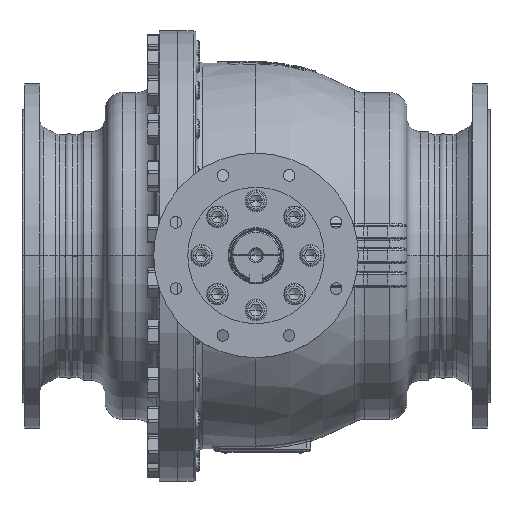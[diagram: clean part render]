
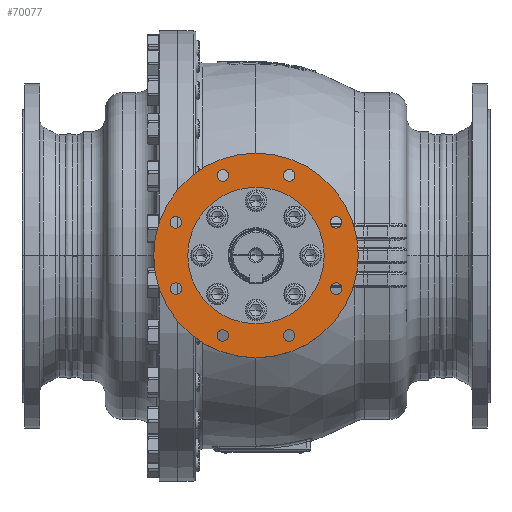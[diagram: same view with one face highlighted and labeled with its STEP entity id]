
A CAD part, top view. The second image highlights one B-rep face of the part: STEP entity #70077.
In plain terms, the highlighted planar face has unit normal (0, 0, 1).
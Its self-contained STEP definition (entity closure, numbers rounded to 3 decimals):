
#3272=CARTESIAN_POINT('',(0.,0.,440.));
#3273=DIRECTION('',(0.,0.,1.));
#3274=DIRECTION('',(1.,0.,0.));
#3275=AXIS2_PLACEMENT_3D('',#3272,#3273,#3274);
#3277=CARTESIAN_POINT('',(0.,0.,440.));
#3278=DIRECTION('',(0.,0.,-1.));
#3279=DIRECTION('',(1.,0.,0.));
#3280=AXIS2_PLACEMENT_3D('',#3277,#3278,#3279);
#3282=CARTESIAN_POINT('',(-117.333,48.601,440.));
#3283=DIRECTION('',(0.,0.,-1.));
#3284=DIRECTION('',(-1.,0.,0.));
#3285=AXIS2_PLACEMENT_3D('',#3282,#3283,#3284);
#3287=CARTESIAN_POINT('',(-117.333,48.601,440.));
#3288=DIRECTION('',(0.,0.,-1.));
#3289=DIRECTION('',(1.,0.,0.));
#3290=AXIS2_PLACEMENT_3D('',#3287,#3288,#3289);
#3292=CARTESIAN_POINT('',(-48.601,117.333,440.));
#3293=DIRECTION('',(0.,0.,-1.));
#3294=DIRECTION('',(-0.707,0.707,0.));
#3295=AXIS2_PLACEMENT_3D('',#3292,#3293,#3294);
#3297=CARTESIAN_POINT('',(-48.601,117.333,440.));
#3298=DIRECTION('',(0.,0.,-1.));
#3299=DIRECTION('',(0.707,-0.707,0.));
#3300=AXIS2_PLACEMENT_3D('',#3297,#3298,#3299);
#3302=CARTESIAN_POINT('',(48.601,117.333,440.));
#3303=DIRECTION('',(0.,0.,-1.));
#3304=DIRECTION('',(0.,1.,0.));
#3305=AXIS2_PLACEMENT_3D('',#3302,#3303,#3304);
#3307=CARTESIAN_POINT('',(48.601,117.333,440.));
#3308=DIRECTION('',(0.,0.,-1.));
#3309=DIRECTION('',(0.,-1.,0.));
#3310=AXIS2_PLACEMENT_3D('',#3307,#3308,#3309);
#3312=CARTESIAN_POINT('',(117.333,48.601,440.));
#3313=DIRECTION('',(0.,0.,-1.));
#3314=DIRECTION('',(0.707,0.707,0.));
#3315=AXIS2_PLACEMENT_3D('',#3312,#3313,#3314);
#3317=CARTESIAN_POINT('',(117.333,48.601,440.));
#3318=DIRECTION('',(0.,0.,-1.));
#3319=DIRECTION('',(-0.707,-0.707,0.));
#3320=AXIS2_PLACEMENT_3D('',#3317,#3318,#3319);
#3322=CARTESIAN_POINT('',(117.333,-48.601,440.));
#3323=DIRECTION('',(0.,0.,-1.));
#3324=DIRECTION('',(1.,0.,0.));
#3325=AXIS2_PLACEMENT_3D('',#3322,#3323,#3324);
#3327=CARTESIAN_POINT('',(117.333,-48.601,440.));
#3328=DIRECTION('',(0.,0.,-1.));
#3329=DIRECTION('',(-1.,0.,0.));
#3330=AXIS2_PLACEMENT_3D('',#3327,#3328,#3329);
#3332=CARTESIAN_POINT('',(48.601,-117.333,440.));
#3333=DIRECTION('',(0.,0.,-1.));
#3334=DIRECTION('',(0.707,-0.707,0.));
#3335=AXIS2_PLACEMENT_3D('',#3332,#3333,#3334);
#3337=CARTESIAN_POINT('',(48.601,-117.333,440.));
#3338=DIRECTION('',(0.,0.,-1.));
#3339=DIRECTION('',(-0.707,0.707,0.));
#3340=AXIS2_PLACEMENT_3D('',#3337,#3338,#3339);
#3342=CARTESIAN_POINT('',(-48.601,-117.333,440.));
#3343=DIRECTION('',(0.,0.,-1.));
#3344=DIRECTION('',(0.,-1.,0.));
#3345=AXIS2_PLACEMENT_3D('',#3342,#3343,#3344);
#3347=CARTESIAN_POINT('',(-48.601,-117.333,440.));
#3348=DIRECTION('',(0.,0.,-1.));
#3349=DIRECTION('',(0.,1.,0.));
#3350=AXIS2_PLACEMENT_3D('',#3347,#3348,#3349);
#3352=CARTESIAN_POINT('',(-117.333,-48.601,440.));
#3353=DIRECTION('',(0.,0.,-1.));
#3354=DIRECTION('',(-0.707,-0.707,0.));
#3355=AXIS2_PLACEMENT_3D('',#3352,#3353,#3354);
#3357=CARTESIAN_POINT('',(-117.333,-48.601,440.));
#3358=DIRECTION('',(0.,0.,-1.));
#3359=DIRECTION('',(0.707,0.707,0.));
#3360=AXIS2_PLACEMENT_3D('',#3357,#3358,#3359);
#3366=CARTESIAN_POINT('',(0.,0.,440.));
#3367=DIRECTION('',(0.,0.,-1.));
#3368=DIRECTION('',(1.,0.,0.));
#3369=AXIS2_PLACEMENT_3D('',#3366,#3367,#3368);
#3375=CARTESIAN_POINT('',(0.,0.,440.));
#3376=DIRECTION('',(0.,0.,1.));
#3377=DIRECTION('',(1.,0.,0.));
#3378=AXIS2_PLACEMENT_3D('',#3375,#3376,#3377);
#65627=CARTESIAN_POINT('',(100.,0.,440.));
#65629=VERTEX_POINT('',#65627);
#65631=CARTESIAN_POINT('',(-100.,0.,440.));
#65633=VERTEX_POINT('',#65631);
#65703=CARTESIAN_POINT('',(-125.833,48.601,440.));
#65704=CARTESIAN_POINT('',(-108.833,48.601,440.));
#65705=VERTEX_POINT('',#65703);
#65706=VERTEX_POINT('',#65704);
#65709=CARTESIAN_POINT('',(-54.611,123.343,440.));
#65710=CARTESIAN_POINT('',(-42.59,111.322,440.));
#65711=VERTEX_POINT('',#65709);
#65712=VERTEX_POINT('',#65710);
#65715=CARTESIAN_POINT('',(48.601,125.833,440.));
#65716=CARTESIAN_POINT('',(48.601,108.833,440.));
#65717=VERTEX_POINT('',#65715);
#65718=VERTEX_POINT('',#65716);
#65721=CARTESIAN_POINT('',(123.343,54.611,440.));
#65722=CARTESIAN_POINT('',(111.322,42.59,440.));
#65723=VERTEX_POINT('',#65721);
#65724=VERTEX_POINT('',#65722);
#65736=CARTESIAN_POINT('',(150.,0.,440.));
#65738=VERTEX_POINT('',#65736);
#65740=CARTESIAN_POINT('',(-150.,0.,440.));
#65742=VERTEX_POINT('',#65740);
#65751=CARTESIAN_POINT('',(125.833,-48.601,440.));
#65752=CARTESIAN_POINT('',(108.833,-48.601,440.));
#65753=VERTEX_POINT('',#65751);
#65754=VERTEX_POINT('',#65752);
#65759=CARTESIAN_POINT('',(54.611,-123.343,440.));
#65760=CARTESIAN_POINT('',(42.59,-111.322,440.));
#65761=VERTEX_POINT('',#65759);
#65762=VERTEX_POINT('',#65760);
#65767=CARTESIAN_POINT('',(-48.601,-125.833,440.));
#65768=CARTESIAN_POINT('',(-48.601,-108.833,440.));
#65769=VERTEX_POINT('',#65767);
#65770=VERTEX_POINT('',#65768);
#65775=CARTESIAN_POINT('',(-123.343,-54.611,440.));
#65776=CARTESIAN_POINT('',(-111.322,-42.59,440.));
#65777=VERTEX_POINT('',#65775);
#65778=VERTEX_POINT('',#65776);
#70014=CARTESIAN_POINT('',(0.,0.,440.));
#70015=DIRECTION('',(0.,0.,1.));
#70016=DIRECTION('',(1.,0.,0.));
#70017=AXIS2_PLACEMENT_3D('',#70014,#70015,#70016);
#70018=PLANE('',#70017);
#70019=ORIENTED_EDGE('',*,*,#70007,.F.);
#70020=ORIENTED_EDGE('',*,*,#69996,.T.);
#70021=EDGE_LOOP('',(#70019,#70020));
#70022=FACE_OUTER_BOUND('',#70021,.F.);
#70024=ORIENTED_EDGE('',*,*,#70023,.F.);
#70026=ORIENTED_EDGE('',*,*,#70025,.T.);
#70027=EDGE_LOOP('',(#70024,#70026));
#70028=FACE_BOUND('',#70027,.F.);
#70030=ORIENTED_EDGE('',*,*,#70029,.F.);
#70032=ORIENTED_EDGE('',*,*,#70031,.F.);
#70033=EDGE_LOOP('',(#70030,#70032));
#70034=FACE_BOUND('',#70033,.F.);
#70036=ORIENTED_EDGE('',*,*,#70035,.F.);
#70038=ORIENTED_EDGE('',*,*,#70037,.F.);
#70039=EDGE_LOOP('',(#70036,#70038));
#70040=FACE_BOUND('',#70039,.F.);
#70042=ORIENTED_EDGE('',*,*,#70041,.F.);
#70044=ORIENTED_EDGE('',*,*,#70043,.F.);
#70045=EDGE_LOOP('',(#70042,#70044));
#70046=FACE_BOUND('',#70045,.F.);
#70048=ORIENTED_EDGE('',*,*,#70047,.F.);
#70050=ORIENTED_EDGE('',*,*,#70049,.F.);
#70051=EDGE_LOOP('',(#70048,#70050));
#70052=FACE_BOUND('',#70051,.F.);
#70054=ORIENTED_EDGE('',*,*,#70053,.F.);
#70056=ORIENTED_EDGE('',*,*,#70055,.F.);
#70057=EDGE_LOOP('',(#70054,#70056));
#70058=FACE_BOUND('',#70057,.F.);
#70060=ORIENTED_EDGE('',*,*,#70059,.F.);
#70062=ORIENTED_EDGE('',*,*,#70061,.F.);
#70063=EDGE_LOOP('',(#70060,#70062));
#70064=FACE_BOUND('',#70063,.F.);
#70066=ORIENTED_EDGE('',*,*,#70065,.F.);
#70068=ORIENTED_EDGE('',*,*,#70067,.F.);
#70069=EDGE_LOOP('',(#70066,#70068));
#70070=FACE_BOUND('',#70069,.F.);
#70072=ORIENTED_EDGE('',*,*,#70071,.F.);
#70074=ORIENTED_EDGE('',*,*,#70073,.F.);
#70075=EDGE_LOOP('',(#70072,#70074));
#70076=FACE_BOUND('',#70075,.F.);
#70077=ADVANCED_FACE('',(#70022,#70028,#70034,#70040,#70046,#70052,#70058,
#70064,#70070,#70076),#70018,.T.);
#3276=CIRCLE('',#3275,150.);
#3281=CIRCLE('',#3280,150.);
#3286=CIRCLE('',#3285,8.5);
#3291=CIRCLE('',#3290,8.5);
#3296=CIRCLE('',#3295,8.5);
#3301=CIRCLE('',#3300,8.5);
#3306=CIRCLE('',#3305,8.5);
#3311=CIRCLE('',#3310,8.5);
#3316=CIRCLE('',#3315,8.5);
#3321=CIRCLE('',#3320,8.5);
#3326=CIRCLE('',#3325,8.5);
#3331=CIRCLE('',#3330,8.5);
#3336=CIRCLE('',#3335,8.5);
#3341=CIRCLE('',#3340,8.5);
#3346=CIRCLE('',#3345,8.5);
#3351=CIRCLE('',#3350,8.5);
#3356=CIRCLE('',#3355,8.5);
#3361=CIRCLE('',#3360,8.5);
#3370=CIRCLE('',#3369,100.);
#3379=CIRCLE('',#3378,100.);
#69996=EDGE_CURVE('',#65738,#65742,#3281,.T.);
#70007=EDGE_CURVE('',#65738,#65742,#3276,.T.);
#70023=EDGE_CURVE('',#65629,#65633,#3370,.T.);
#70025=EDGE_CURVE('',#65629,#65633,#3379,.T.);
#70029=EDGE_CURVE('',#65705,#65706,#3286,.T.);
#70031=EDGE_CURVE('',#65706,#65705,#3291,.T.);
#70035=EDGE_CURVE('',#65711,#65712,#3296,.T.);
#70037=EDGE_CURVE('',#65712,#65711,#3301,.T.);
#70041=EDGE_CURVE('',#65717,#65718,#3306,.T.);
#70043=EDGE_CURVE('',#65718,#65717,#3311,.T.);
#70047=EDGE_CURVE('',#65723,#65724,#3316,.T.);
#70049=EDGE_CURVE('',#65724,#65723,#3321,.T.);
#70053=EDGE_CURVE('',#65753,#65754,#3326,.T.);
#70055=EDGE_CURVE('',#65754,#65753,#3331,.T.);
#70059=EDGE_CURVE('',#65761,#65762,#3336,.T.);
#70061=EDGE_CURVE('',#65762,#65761,#3341,.T.);
#70065=EDGE_CURVE('',#65769,#65770,#3346,.T.);
#70067=EDGE_CURVE('',#65770,#65769,#3351,.T.);
#70071=EDGE_CURVE('',#65777,#65778,#3356,.T.);
#70073=EDGE_CURVE('',#65778,#65777,#3361,.T.);
